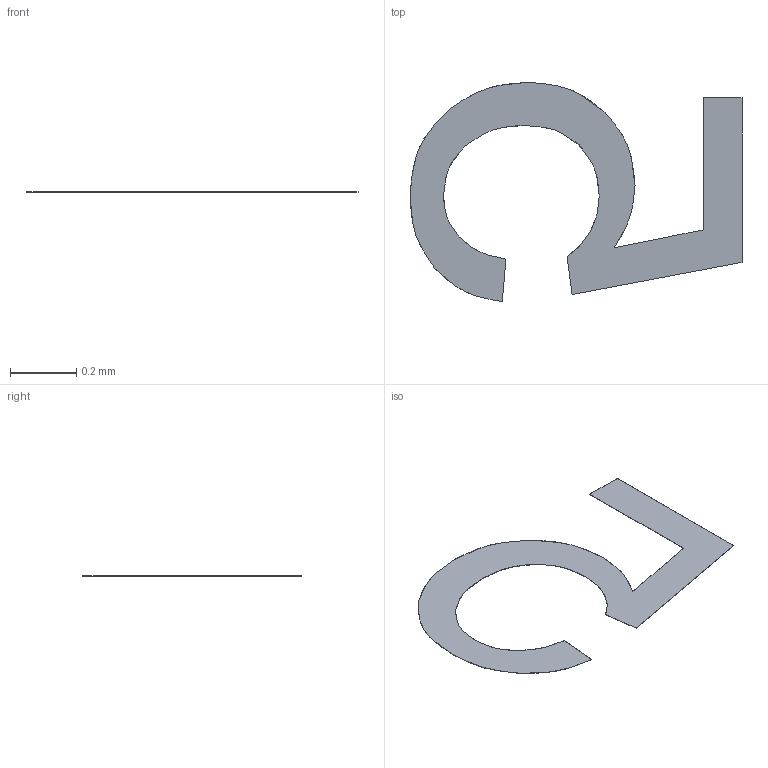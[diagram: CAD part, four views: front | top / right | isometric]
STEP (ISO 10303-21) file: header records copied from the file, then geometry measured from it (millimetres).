
FILE_DESCRIPTION(/* description */ ('STEP AP242 Edition 2','CAx-IF Rec.Pracs.---Representation and Presentation of Product Manufacturing Information (PMI)---4.0---2014-10-13','CAx-IF Rec.Pracs.---3D Tessellated Geometry---0.4---2014-09-14','2;1','CAx-IF Rec.Pracs.---User Defined Attributes---1.5---2016-08-15'),/* implementation_level */ '2;1');
FILE_NAME(/* name */ 'Drone Layout - Surface 368',/* time_stamp */ '2026-10-04T22:22:58Z',/* author */ (''),/* organization */ (''),/* preprocessor_version */ 'ST-DEVELOPER v20',/* originating_system */ 'ONSHAPE BY PTC INC, 1.221',/* authorisation */ ' ');
FILE_SCHEMA (('AP242_MANAGED_MODEL_BASED_3D_ENGINEERING_MIM_LF { 1 0 10303 442 3 1 4 }'));
Length unit declared in the file: metre
Products named in the file (1): VL53L0X:1__Body42
Bounding box: 1 x 0.66 x 0 mm (x, y, z)
Volume: 0 mm3; surface area: 0.6 mm2
Topology: 1 solids, 1 shells, 24 faces, 66 edges, 44 vertices
Faces by surface type: bspline 15, plane 9
Entity records: 889 total; most frequent: CARTESIAN_POINT 366, ORIENTED_EDGE 132, EDGE_CURVE 66, DIRECTION 56, VERTEX_POINT 44, LINE 36, VECTOR 36, B_SPLINE_CURVE_WITH_KNOTS 30
